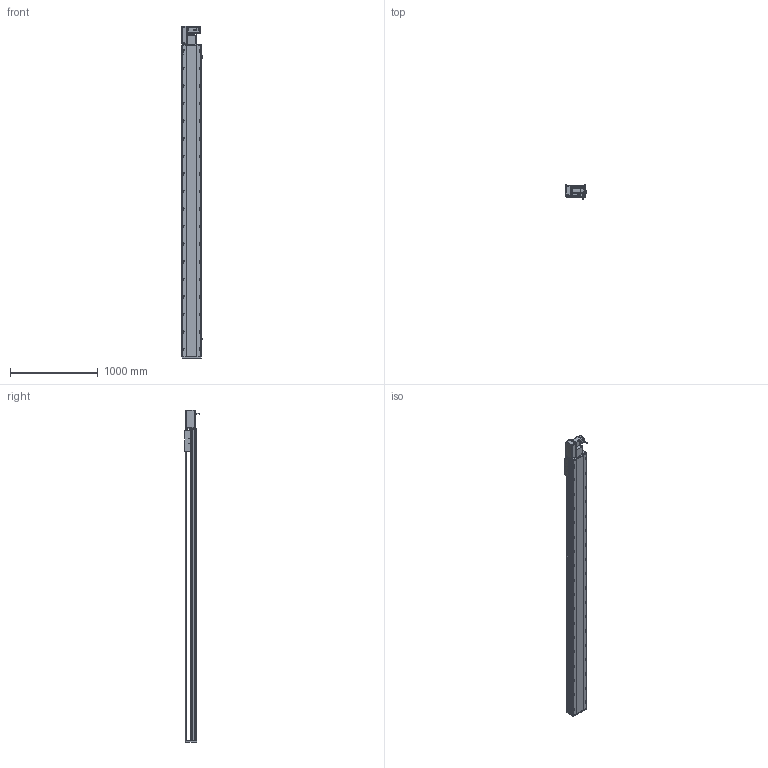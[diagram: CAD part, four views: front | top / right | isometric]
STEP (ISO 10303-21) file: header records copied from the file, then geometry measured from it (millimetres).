
FILE_DESCRIPTION (( 'STEP AP214' ), '1' );
FILE_NAME ('RTB22S-XX-3200-L-M75-C4.STEP', '2025-12-12T03:33:49', ( '' ), ( '' ), 'SwSTEP 2.0', 'SolidWorks 2018', '' );
FILE_SCHEMA (( 'AUTOMOTIVE_DESIGN' ));
Length unit declared in the file: millimetre
Products named in the file (14): RTB22S-GY-018P^RTB22S-L-々湍釱蚾饜_RTB22S-XX-XX-L-M75-C4; RTB22S-L-々湍釱蚾饜^RTB22S-XX-XX-L-M75-C4; RTB22S-GY-005P^RTB22S-L-々湍釱蚾饜_RTB22S-XX-XX-L-M75-C4; RTB22S-GY-014--々湍釱^RTB22S-L-々湍釱蚾饜_RTB22S-XX-XX-L-M75-C4; RTH22-GY-013外置感应片^RTB22S-XX-XX-L-M75-C4; RTB22S-GY-007奻裔^RTB22S-XX-XX-L-M75-C4; OMRON EE-SX672 传感器^RTB22S-XX-XX-L-M75-C4; RTB22S-L-004賑釱^RTB22S-XX-XX-L-M75-C4; RTB22S-GY-001耜裔^RTB22S-XX-XX-L-M75-C4; RTB22S-GY-008-M75--萇儂啣^RTB22S-L-々湍釱蚾饜_RTB22S-XX-XX-L-M75-C4; RTB22S-GY-017P^RTB22S-L-々湍釱蚾饜_RTB22S-XX-XX-L-M75-C4; 750W萇儂^RTB22S-XX-XX-L-M75-C4; RTB22S-L-011菁釱^RTB22S-XX-XX-L-M75-C4; RTB22S-XX-3200-L-M75-C4
Assembly tree (16 placements, depth 3):
  RTB22S-XX-3200-L-M75-C4
    RTB22S-L-011菁釱^RTB22S-XX-XX-L-M75-C4
    750W萇儂^RTB22S-XX-XX-L-M75-C4
    RTB22S-L-004賑釱^RTB22S-XX-XX-L-M75-C4
    OMRON EE-SX672 传感器^RTB22S-XX-XX-L-M75-C4  x3
    RTH22-GY-013外置感应片^RTB22S-XX-XX-L-M75-C4
    RTB22S-GY-007奻裔^RTB22S-XX-XX-L-M75-C4
    RTB22S-GY-001耜裔^RTB22S-XX-XX-L-M75-C4
    RTB22S-L-々湍釱蚾饜^RTB22S-XX-XX-L-M75-C4
      RTB22S-GY-014--々湍釱^RTB22S-L-々湍釱蚾饜_RTB22S-XX-XX-L-M75-C4
      RTB22S-GY-017P^RTB22S-L-々湍釱蚾饜_RTB22S-XX-XX-L-M75-C4  x2
      RTB22S-GY-005P^RTB22S-L-々湍釱蚾饜_RTB22S-XX-XX-L-M75-C4
      RTB22S-GY-008-M75--萇儂啣^RTB22S-L-々湍釱蚾饜_RTB22S-XX-XX-L-M75-C4
      RTB22S-GY-018P^RTB22S-L-々湍釱蚾饜_RTB22S-XX-XX-L-M75-C4
Bounding box: 238.5 x 162.7 x 3779 mm (x, y, z)
Volume: 46922721.9 mm3; surface area: 4778222.2 mm2
Topology: 15 solids, 15 shells, 2163 faces, 5886 edges, 3752 vertices
Faces by surface type: plane 935, cylinder 742, bspline 296, cone 178, sphere 8, torus 4
Entity records: 59348 total; most frequent: CARTESIAN_POINT 16652, ORIENTED_EDGE 8480, DIRECTION 8334, EDGE_CURVE 4240, AXIS2_PLACEMENT_3D 3006, VERTEX_POINT 2756, LINE 2322, VECTOR 2322
